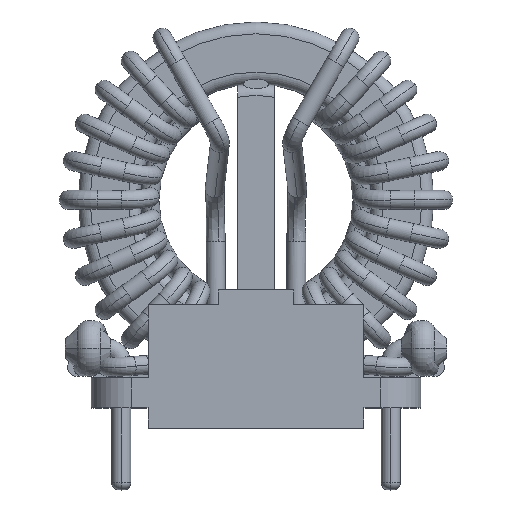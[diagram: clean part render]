
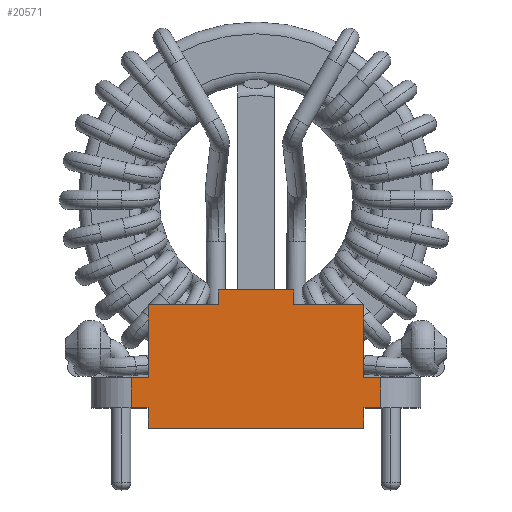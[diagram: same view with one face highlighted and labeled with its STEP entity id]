
A CAD part, top view. The second image highlights one B-rep face of the part: STEP entity #20571.
In plain terms, the highlighted planar face has unit normal (0, 0, 1).
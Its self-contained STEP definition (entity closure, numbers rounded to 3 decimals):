
#400 = VECTOR ( 'NONE', #6506, 1000. ) ;
#408 = VECTOR ( 'NONE', #11304, 1000. ) ;
#505 = CARTESIAN_POINT ( 'NONE',  ( 3.19, 9.98, 10.75 ) ) ;
#506 = DIRECTION ( 'NONE',  ( 1., 0., 0. ) ) ;
#832 = VECTOR ( 'NONE', #20635, 1000. ) ;
#1686 = CARTESIAN_POINT ( 'NONE',  ( -3.19, 8.71, 10.75 ) ) ;
#1751 = CARTESIAN_POINT ( 'NONE',  ( 9.15, -1.75, 10.75 ) ) ;
#1754 = ORIENTED_EDGE ( 'NONE', *, *, #13446, .T. ) ;
#2002 = EDGE_CURVE ( 'NONE', #20910, #17358, #18995, .T. ) ;
#2051 = VERTEX_POINT ( 'NONE', #19366 ) ;
#2267 = DIRECTION ( 'NONE',  ( 0., -1., 0. ) ) ;
#2335 = VERTEX_POINT ( 'NONE', #6449 ) ;
#2590 = VERTEX_POINT ( 'NONE', #5024 ) ;
#2618 = VECTOR ( 'NONE', #3062, 1000. ) ;
#2690 = CARTESIAN_POINT ( 'NONE',  ( -3.19, 9.98, 10.75 ) ) ;
#2987 = DIRECTION ( 'NONE',  ( 0., 1., 0. ) ) ;
#3062 = DIRECTION ( 'NONE',  ( -1., 0., 0. ) ) ;
#3082 = EDGE_CURVE ( 'NONE', #6965, #14203, #12581, .T. ) ;
#3321 = LINE ( 'NONE', #22586, #7835 ) ;
#3366 = CARTESIAN_POINT ( 'NONE',  ( 9.15, 0., 10.75 ) ) ;
#3687 = ORIENTED_EDGE ( 'NONE', *, *, #7319, .F. ) ;
#3739 = LINE ( 'NONE', #18367, #17919 ) ;
#3896 = LINE ( 'NONE', #10765, #17490 ) ;
#4036 = LINE ( 'NONE', #13819, #15246 ) ;
#4143 = DIRECTION ( 'NONE',  ( 0., 1., 0. ) ) ;
#4171 = DIRECTION ( 'NONE',  ( 1., 0., 0. ) ) ;
#4293 = CARTESIAN_POINT ( 'NONE',  ( -13.97, 0., 10.75 ) ) ;
#4767 = ORIENTED_EDGE ( 'NONE', *, *, #6364, .F. ) ;
#4887 = LINE ( 'NONE', #18357, #11247 ) ;
#4929 = VECTOR ( 'NONE', #5313, 1000. ) ;
#5024 = CARTESIAN_POINT ( 'NONE',  ( 3.19, 8.71, 10.75 ) ) ;
#5309 = CARTESIAN_POINT ( 'NONE',  ( -9.15, 0., 10.75 ) ) ;
#5313 = DIRECTION ( 'NONE',  ( 1., 0., 0. ) ) ;
#5406 = ORIENTED_EDGE ( 'NONE', *, *, #21291, .F. ) ;
#5515 = ORIENTED_EDGE ( 'NONE', *, *, #7728, .F. ) ;
#5552 = LINE ( 'NONE', #19216, #408 ) ;
#5772 = ORIENTED_EDGE ( 'NONE', *, *, #18867, .T. ) ;
#5889 = CARTESIAN_POINT ( 'NONE',  ( -9.15, 8.71, 10.75 ) ) ;
#6307 = ORIENTED_EDGE ( 'NONE', *, *, #2002, .F. ) ;
#6315 = ORIENTED_EDGE ( 'NONE', *, *, #3082, .T. ) ;
#6364 = EDGE_CURVE ( 'NONE', #11409, #23874, #14926, .T. ) ;
#6449 = CARTESIAN_POINT ( 'NONE',  ( 9.15, 8.71, 10.75 ) ) ;
#6506 = DIRECTION ( 'NONE',  ( 1., 0., 0. ) ) ;
#6751 = LINE ( 'NONE', #14769, #4929 ) ;
#6768 = VERTEX_POINT ( 'NONE', #5309 ) ;
#6808 = DIRECTION ( 'NONE',  ( 0., -1., 0. ) ) ;
#6965 = VERTEX_POINT ( 'NONE', #5889 ) ;
#7006 = VERTEX_POINT ( 'NONE', #1751 ) ;
#7076 = VECTOR ( 'NONE', #23417, 1000. ) ;
#7151 = CARTESIAN_POINT ( 'NONE',  ( -10.57, 2.54, 10.75 ) ) ;
#7319 = EDGE_CURVE ( 'NONE', #6965, #20910, #14928, .T. ) ;
#7485 = VECTOR ( 'NONE', #23804, 1000. ) ;
#7561 = EDGE_CURVE ( 'NONE', #2335, #11409, #18837, .T. ) ;
#7664 = ORIENTED_EDGE ( 'NONE', *, *, #16598, .T. ) ;
#7728 = EDGE_CURVE ( 'NONE', #17530, #2590, #4036, .T. ) ;
#7835 = VECTOR ( 'NONE', #16690, 1000. ) ;
#7956 = VERTEX_POINT ( 'NONE', #22180 ) ;
#7992 = CARTESIAN_POINT ( 'NONE',  ( -13.97, 2.54, 10.75 ) ) ;
#8040 = CARTESIAN_POINT ( 'NONE',  ( 3.19, 8.71, 10.75 ) ) ;
#8042 = CARTESIAN_POINT ( 'NONE',  ( -3.19, 9.98, 10.75 ) ) ;
#8066 = EDGE_CURVE ( 'NONE', #7956, #14203, #6751, .T. ) ;
#8090 = VERTEX_POINT ( 'NONE', #3366 ) ;
#8183 = EDGE_CURVE ( 'NONE', #8090, #2051, #5552, .T. ) ;
#8288 = CARTESIAN_POINT ( 'NONE',  ( -9.15, 2.54, 10.75 ) ) ;
#8412 = VERTEX_POINT ( 'NONE', #13722 ) ;
#9678 = ORIENTED_EDGE ( 'NONE', *, *, #21798, .F. ) ;
#10100 = FACE_OUTER_BOUND ( 'NONE', #19648, .T. ) ;
#10310 = CARTESIAN_POINT ( 'NONE',  ( -9.15, 9.98, 10.75 ) ) ;
#10765 = CARTESIAN_POINT ( 'NONE',  ( 10.57, 2.54, 10.75 ) ) ;
#11113 = CARTESIAN_POINT ( 'NONE',  ( -3.19, 8.71, 10.75 ) ) ;
#11247 = VECTOR ( 'NONE', #22059, 1000. ) ;
#11304 = DIRECTION ( 'NONE',  ( 1., 0., 0. ) ) ;
#11409 = VERTEX_POINT ( 'NONE', #22473 ) ;
#11916 = CARTESIAN_POINT ( 'NONE',  ( 9.15, 9.98, 10.75 ) ) ;
#11952 = ORIENTED_EDGE ( 'NONE', *, *, #18429, .T. ) ;
#11953 = LINE ( 'NONE', #18430, #2618 ) ;
#12581 = LINE ( 'NONE', #10310, #7485 ) ;
#13008 = PLANE ( 'NONE',  #23465 ) ;
#13197 = DIRECTION ( 'NONE',  ( 1., 0., 0. ) ) ;
#13446 = EDGE_CURVE ( 'NONE', #6768, #24934, #4887, .T. ) ;
#13722 = CARTESIAN_POINT ( 'NONE',  ( -10.57, 0., 10.75 ) ) ;
#13819 = CARTESIAN_POINT ( 'NONE',  ( 3.19, 9.98, 10.75 ) ) ;
#14203 = VERTEX_POINT ( 'NONE', #8288 ) ;
#14290 = ORIENTED_EDGE ( 'NONE', *, *, #15703, .T. ) ;
#14769 = CARTESIAN_POINT ( 'NONE',  ( -13.97, 2.54, 10.75 ) ) ;
#14926 = LINE ( 'NONE', #7992, #23085 ) ;
#14928 = LINE ( 'NONE', #11113, #16450 ) ;
#15063 = CARTESIAN_POINT ( 'NONE',  ( -13.97, 2.54, 10.75 ) ) ;
#15111 = VECTOR ( 'NONE', #506, 1000. ) ;
#15246 = VECTOR ( 'NONE', #2267, 1000. ) ;
#15703 = EDGE_CURVE ( 'NONE', #2051, #23874, #3896, .T. ) ;
#15733 = EDGE_CURVE ( 'NONE', #7006, #24934, #3321, .T. ) ;
#16057 = ORIENTED_EDGE ( 'NONE', *, *, #8183, .T. ) ;
#16366 = CARTESIAN_POINT ( 'NONE',  ( 10.57, 2.54, 10.75 ) ) ;
#16450 = VECTOR ( 'NONE', #13197, 1000. ) ;
#16598 = EDGE_CURVE ( 'NONE', #8412, #6768, #20213, .T. ) ;
#16690 = DIRECTION ( 'NONE',  ( -1., 0., 0. ) ) ;
#17030 = LINE ( 'NONE', #8040, #400 ) ;
#17358 = VERTEX_POINT ( 'NONE', #2690 ) ;
#17490 = VECTOR ( 'NONE', #2987, 1000. ) ;
#17530 = VERTEX_POINT ( 'NONE', #505 ) ;
#17919 = VECTOR ( 'NONE', #6808, 1000. ) ;
#18357 = CARTESIAN_POINT ( 'NONE',  ( -9.15, 9.98, 10.75 ) ) ;
#18367 = CARTESIAN_POINT ( 'NONE',  ( 9.15, 9.98, 10.75 ) ) ;
#18429 = EDGE_CURVE ( 'NONE', #7956, #8412, #21348, .T. ) ;
#18430 = CARTESIAN_POINT ( 'NONE',  ( -9.15, 9.98, 10.75 ) ) ;
#18675 = DIRECTION ( 'NONE',  ( -1., 0., 0. ) ) ;
#18837 = LINE ( 'NONE', #11916, #7076 ) ;
#18867 = EDGE_CURVE ( 'NONE', #17530, #17358, #11953, .T. ) ;
#18995 = LINE ( 'NONE', #8042, #21687 ) ;
#19216 = CARTESIAN_POINT ( 'NONE',  ( -13.97, 0., 10.75 ) ) ;
#19269 = ORIENTED_EDGE ( 'NONE', *, *, #8066, .F. ) ;
#19366 = CARTESIAN_POINT ( 'NONE',  ( 10.57, 0., 10.75 ) ) ;
#19648 = EDGE_LOOP ( 'NONE', ( #19269, #11952, #7664, #1754, #21991, #5406, #16057, #14290, #4767, #20947, #9678, #5515, #5772, #6307, #3687, #6315 ) ) ;
#19782 = CARTESIAN_POINT ( 'NONE',  ( -9.15, -1.75, 10.75 ) ) ;
#20213 = LINE ( 'NONE', #4293, #15111 ) ;
#20571 = ADVANCED_FACE ( 'NONE', ( #10100 ), #13008, .F. ) ;
#20635 = DIRECTION ( 'NONE',  ( 0., -1., 0. ) ) ;
#20910 = VERTEX_POINT ( 'NONE', #1686 ) ;
#20947 = ORIENTED_EDGE ( 'NONE', *, *, #7561, .F. ) ;
#21291 = EDGE_CURVE ( 'NONE', #8090, #7006, #3739, .T. ) ;
#21348 = LINE ( 'NONE', #7151, #832 ) ;
#21687 = VECTOR ( 'NONE', #4143, 1000. ) ;
#21798 = EDGE_CURVE ( 'NONE', #2590, #2335, #17030, .T. ) ;
#21991 = ORIENTED_EDGE ( 'NONE', *, *, #15733, .F. ) ;
#22059 = DIRECTION ( 'NONE',  ( 0., -1., 0. ) ) ;
#22180 = CARTESIAN_POINT ( 'NONE',  ( -10.57, 2.54, 10.75 ) ) ;
#22473 = CARTESIAN_POINT ( 'NONE',  ( 9.15, 2.54, 10.75 ) ) ;
#22586 = CARTESIAN_POINT ( 'NONE',  ( -9.15, -1.75, 10.75 ) ) ;
#23085 = VECTOR ( 'NONE', #4171, 1000. ) ;
#23417 = DIRECTION ( 'NONE',  ( 0., -1., 0. ) ) ;
#23465 = AXIS2_PLACEMENT_3D ( 'NONE', #15063, #24322, #18675 ) ;
#23804 = DIRECTION ( 'NONE',  ( 0., -1., 0. ) ) ;
#23874 = VERTEX_POINT ( 'NONE', #16366 ) ;
#24322 = DIRECTION ( 'NONE',  ( 0., 0., -1. ) ) ;
#24934 = VERTEX_POINT ( 'NONE', #19782 ) ;
